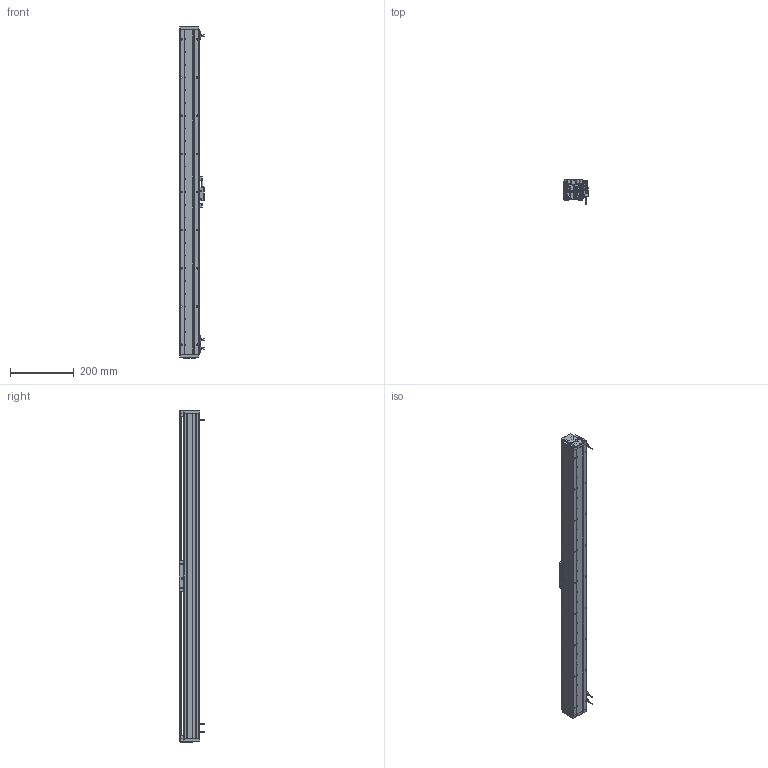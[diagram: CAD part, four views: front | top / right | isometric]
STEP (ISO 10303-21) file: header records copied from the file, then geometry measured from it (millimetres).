
FILE_DESCRIPTION (( 'STEP AP203' ), '1' );
FILE_NAME ('DA-A60-B1-T880-C010-0.2 眻盄萇儂.STEP', '2025-08-13T02:00:25', ( '' ), ( '' ), 'SwSTEP 2.0', 'SolidWorks 2019', '' );
FILE_SCHEMA (( 'CONFIG_CONTROL_DESIGN' ));
Length unit declared in the file: millimetre
Products named in the file (21): 复件 DA60-DG-H-N-00 端盖^DA-A60-B1-T-C010-0.2-N 直线电机; 复件 六角薄螺母 M3^DA-A60-B1-T-C010-0.2-N 直线电机(GB_FASTENER_NUT_STNAB M3-C); 复件 DA60-GT-T-00 底座钢轨^AU60-L 底座导轨; 复件 DA-A60-GYP-DMT-00 光电感应片^DA-A60-B1-T-C010-0.2-N 直线电机(默认); DA60-T-002-00  裔啣; 葩璃 AKM01-W030-TRL^DA-A60-B1-T-C010-0.2-N 眻盄萇儂; 复件 DA60-XJ-00 橡胶挡块^DA-A60-B1-T-C010-0.2-N 直线电机; 复件 BAKM01-W030-C1-TP-0.2 直线电机动子^DA-A60-B1-T-C010-0.2-N 直线电机; DA60-B1-HT-B-03 賑雄怢啣; DA60-YT-B1-HT-B-01 珨极趙賑雄怢啣; AU60-L 菁釱絳寢; AU60-V 幗紩賑怢; 复件 XD-U-02  磁栅尺^DA-A60-B1-T-C010-0.2-N 直线电机; 复件 纯铜油杯 6x6mm^AU60-V 滚珠滑台; IU-AU60-L-00 菁釱(1020); 复件 DA60-B1-GT-00 滑块钢轨^DA60-YT-B1-HT-B-01 一体化滑动台板; 复件 DA60-DMT-DTJ-00 读数头支架^DA-A60-B1-T-C010-0.2-N 直线电机; 葩璃 PM-T45^DA-A60-B1-T-C010-0.2-N 眻盄萇儂; DA-A60-B1-T880-C010-0.2 眻盄萇儂; 葩璃 DA60-HK-DP-01 結え^AU60-V 幗紩賑怢; 葩璃 DMT-010 1米m 0.2M^DA-A60-B1-T-C010-0.2-N 眻盄萇儂
Assembly tree (33 placements, depth 4):
  DA-A60-B1-T880-C010-0.2 眻盄萇儂
    AU60-L 菁釱絳寢
      IU-AU60-L-00 菁釱(1020)
      复件 DA60-GT-T-00 底座钢轨^AU60-L 底座导轨  x2
    AU60-V 幗紩賑怢
      DA60-YT-B1-HT-B-01 珨极趙賑雄怢啣
        DA60-B1-HT-B-03 賑雄怢啣
        复件 DA60-B1-GT-00 滑块钢轨^DA60-YT-B1-HT-B-01 一体化滑动台板  x2
      葩璃 DA60-HK-DP-01 結え^AU60-V 幗紩賑怢  x2
      复件 纯铜油杯 6x6mm^AU60-V 滚珠滑台
    复件 DA-A60-GYP-DMT-00 光电感应片^DA-A60-B1-T-C010-0.2-N 直线电机(默认)  x2
    复件 DA60-DMT-DTJ-00 读数头支架^DA-A60-B1-T-C010-0.2-N 直线电机
    葩璃 DMT-010 1米m 0.2M^DA-A60-B1-T-C010-0.2-N 眻盄萇儂
    复件 BAKM01-W030-C1-TP-0.2 直线电机动子^DA-A60-B1-T-C010-0.2-N 直线电机
    复件 DA60-XJ-00 橡胶挡块^DA-A60-B1-T-C010-0.2-N 直线电机  x2
    复件 DA60-DG-H-N-00 端盖^DA-A60-B1-T-C010-0.2-N 直线电机  x2
    DA60-T-002-00  裔啣
    葩璃 AKM01-W030-TRL^DA-A60-B1-T-C010-0.2-N 眻盄萇儂
    葩璃 PM-T45^DA-A60-B1-T-C010-0.2-N 眻盄萇儂  x3
    复件 XD-U-02  磁栅尺^DA-A60-B1-T-C010-0.2-N 直线电机
    复件 六角薄螺母 M3^DA-A60-B1-T-C010-0.2-N 直线电机(GB_FASTENER_NUT_STNAB M3-C)  x6
Bounding box: 76.95 x 80 x 1044 mm (x, y, z)
Volume: 2109639.6 mm3; surface area: 754734.9 mm2
Topology: 35 solids, 37 shells, 3078 faces, 8028 edges, 4895 vertices
Faces by surface type: cylinder 1215, plane 1029, bspline 577, cone 248, torus 8, sphere 1
Entity records: 79711 total; most frequent: CARTESIAN_POINT 25423, ORIENTED_EDGE 11312, DIRECTION 10251, EDGE_CURVE 5656, AXIS2_PLACEMENT_3D 3685, VERTEX_POINT 3566, VECTOR 2881, LINE 2881
